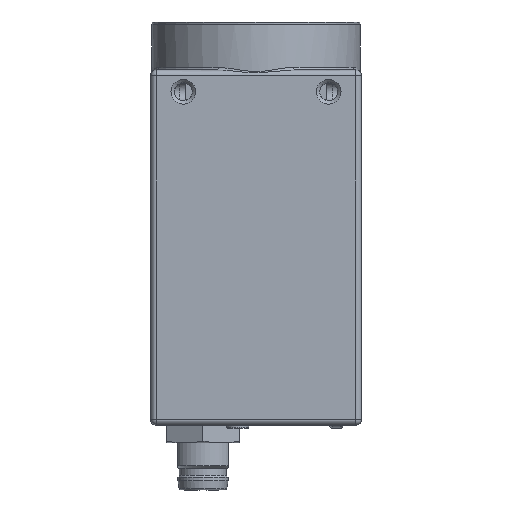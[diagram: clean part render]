
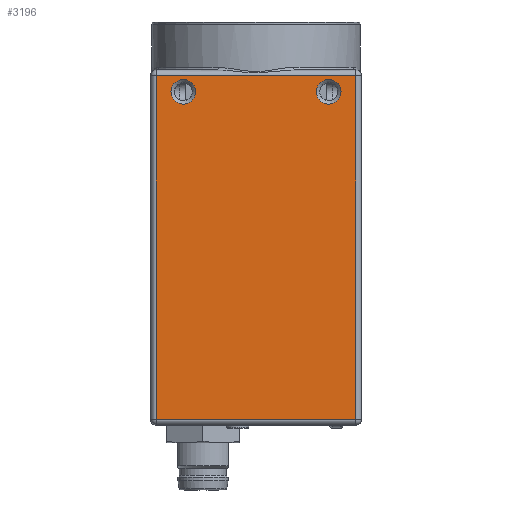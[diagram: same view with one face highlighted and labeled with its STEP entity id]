
A CAD part, left-side view. The second image highlights one B-rep face of the part: STEP entity #3196.
In plain terms, the highlighted planar face has unit normal (-1, 0, 0).
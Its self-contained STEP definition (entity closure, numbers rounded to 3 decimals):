
#3196 = ADVANCED_FACE( '', ( #8281, #8282, #8283 ), #8284, .T. );
#8281 = FACE_BOUND( '', #15730, .T. );
#8282 = FACE_BOUND( '', #15731, .T. );
#8283 = FACE_OUTER_BOUND( '', #15732, .T. );
#8284 = PLANE( '', #15733 );
#15730 = EDGE_LOOP( '', ( #26940 ) );
#15731 = EDGE_LOOP( '', ( #26941 ) );
#15732 = EDGE_LOOP( '', ( #26942, #26943, #26944, #26945 ) );
#15733 = AXIS2_PLACEMENT_3D( '', #26946, #26947, #26948 );
#26940 = ORIENTED_EDGE( '', *, *, #45208, .T. );
#26941 = ORIENTED_EDGE( '', *, *, #44912, .T. );
#26942 = ORIENTED_EDGE( '', *, *, #45806, .T. );
#26943 = ORIENTED_EDGE( '', *, *, #45807, .T. );
#26944 = ORIENTED_EDGE( '', *, *, #43810, .T. );
#26945 = ORIENTED_EDGE( '', *, *, #45808, .T. );
#26946 = CARTESIAN_POINT( '', ( -14.5, -14.5, 12.2 ) );
#26947 = DIRECTION( '', ( -1., 0., 0. ) );
#26948 = DIRECTION( '', ( 0., 0., 1. ) );
#43810 = EDGE_CURVE( '', #52148, #52146, #52149, .T. );
#44912 = EDGE_CURVE( '', #54079, #54079, #54080, .T. );
#45208 = EDGE_CURVE( '', #54580, #54580, #54581, .T. );
#45806 = EDGE_CURVE( '', #55564, #53183, #55565, .T. );
#45807 = EDGE_CURVE( '', #53183, #52148, #55566, .F. );
#45808 = EDGE_CURVE( '', #52146, #55564, #55567, .T. );
#52146 = VERTEX_POINT( '', #64299 );
#52148 = VERTEX_POINT( '', #64301 );
#52149 = LINE( '', #64302, #64303 );
#53183 = VERTEX_POINT( '', #65827 );
#54079 = VERTEX_POINT( '', #67295 );
#54080 = CIRCLE( '', #67296, 1.7 );
#54580 = VERTEX_POINT( '', #68005 );
#54581 = CIRCLE( '', #68006, 1.7 );
#55564 = VERTEX_POINT( '', #69429 );
#55565 = LINE( '', #69430, #69431 );
#55566 = LINE( '', #69432, #69433 );
#55567 = LINE( '', #69434, #69435 );
#64299 = CARTESIAN_POINT( '', ( -14.5, 13.7, 11.4 ) );
#64301 = CARTESIAN_POINT( '', ( -14.5, -13.7, 11.4 ) );
#64302 = CARTESIAN_POINT( '', ( -14.5, 14.5, 11.4 ) );
#64303 = VECTOR( '', #81195, 1000. );
#65827 = CARTESIAN_POINT( '', ( -14.5, -13.7, -35.9 ) );
#67295 = CARTESIAN_POINT( '', ( -14.5, 11.7, 9.2 ) );
#67296 = AXIS2_PLACEMENT_3D( '', #82446, #82447, #82448 );
#68005 = CARTESIAN_POINT( '', ( -14.5, -8.3, 9.2 ) );
#68006 = AXIS2_PLACEMENT_3D( '', #82835, #82836, #82837 );
#69429 = CARTESIAN_POINT( '', ( -14.5, 13.7, -35.9 ) );
#69430 = CARTESIAN_POINT( '', ( -14.5, -14.5, -35.9 ) );
#69431 = VECTOR( '', #83578, 1000. );
#69432 = CARTESIAN_POINT( '', ( -14.5, -13.7, 12.2 ) );
#69433 = VECTOR( '', #83579, 1000. );
#69434 = CARTESIAN_POINT( '', ( -14.5, 13.7, 12.2 ) );
#69435 = VECTOR( '', #83580, 1000. );
#81195 = DIRECTION( '', ( 0., 1., 0. ) );
#82446 = CARTESIAN_POINT( '', ( -14.5, 10., 9.2 ) );
#82447 = DIRECTION( '', ( 1., 0., 0. ) );
#82448 = DIRECTION( '', ( 0., 1., 0. ) );
#82835 = CARTESIAN_POINT( '', ( -14.5, -10., 9.2 ) );
#82836 = DIRECTION( '', ( 1., 0., 0. ) );
#82837 = DIRECTION( '', ( 0., 1., 0. ) );
#83578 = DIRECTION( '', ( 0., -1., 0. ) );
#83579 = DIRECTION( '', ( 0., 0., -1. ) );
#83580 = DIRECTION( '', ( 0., 0., -1. ) );
